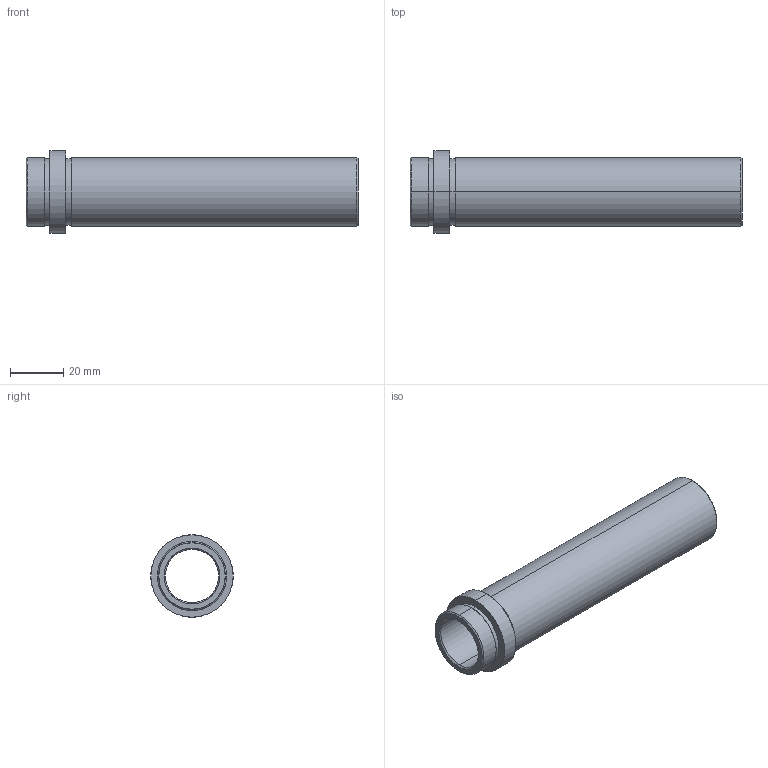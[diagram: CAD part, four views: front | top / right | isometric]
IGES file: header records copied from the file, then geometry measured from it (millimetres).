
Start section: SolidWorks IGES FILE using analytic representation for surfaces
Global section: file name: D:\zzzzz\Delta\D21\20\D21 - 20x116.IGS; native system: SolidWorks 2004 by SolidWorks Corporation; preprocessor: Version 5.3; author: Hkn; date: 080326.192214; units: millimetre
Bounding box: 125 x 31 x 31 mm (x, y, z)
Surface area: 19102.6 mm2 (no closed solid volume)
Topology: 0 solids, 0 shells, 26 faces, 528 edges, 528 vertices
Faces by surface type: revolution 20, bspline 6
